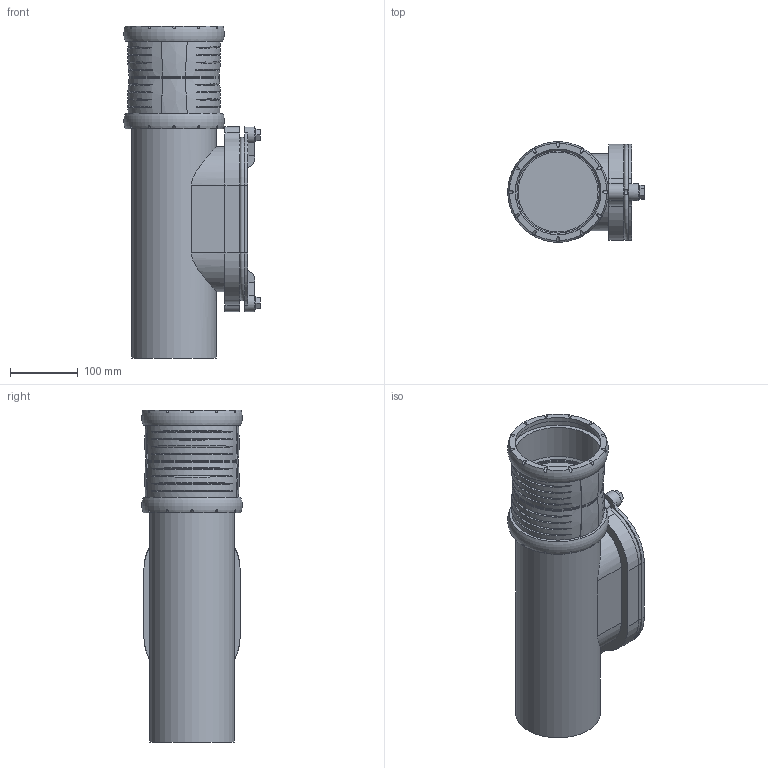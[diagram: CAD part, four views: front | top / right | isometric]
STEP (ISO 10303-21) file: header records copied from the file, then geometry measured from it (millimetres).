
FILE_DESCRIPTION(/* description */ (''),/* implementation_level */ '2;1');
FILE_NAME(/* name */ 'H:\Geberit-Teile\Export\Rein Stück PP_Oval\stp\393603.stp',/* time_stamp */ '2017-02-14T12:55:18+01:00',/* author */ ('seihe2'),/* organization */ (''),/* preprocessor_version */ 'ST-DEVELOPER v15.2',/* originating_system */ 'Autodesk Inventor 2014',/* authorisation */ '');
FILE_SCHEMA (('AUTOMOTIVE_DESIGN { 1 0 10303 214 3 1 1 }'));
Length unit declared in the file: millimetre
Products named in the file (1): 393603
Bounding box: 201.16 x 148.36 x 489.8 mm (x, y, z)
Volume: 6370756.6 mm3; surface area: 452728.1 mm2
Topology: 3 solids, 5 shells, 226 faces, 565 edges, 384 vertices
Faces by surface type: cylinder 89, plane 75, bspline 56, torus 4, cone 2
Full cylindrical faces by diameter (mm): 10 x4, 20 x2, 117.9 x2, 125 x1, 126 x2, 126.4 x2, 138.1 x2
Entity records: 11700 total; most frequent: CARTESIAN_POINT 6446, ORIENTED_EDGE 1072, DIRECTION 919, EDGE_CURVE 536, VERTEX_POINT 375, AXIS2_PLACEMENT_3D 364, EDGE_LOOP 285, STYLED_ITEM 229
